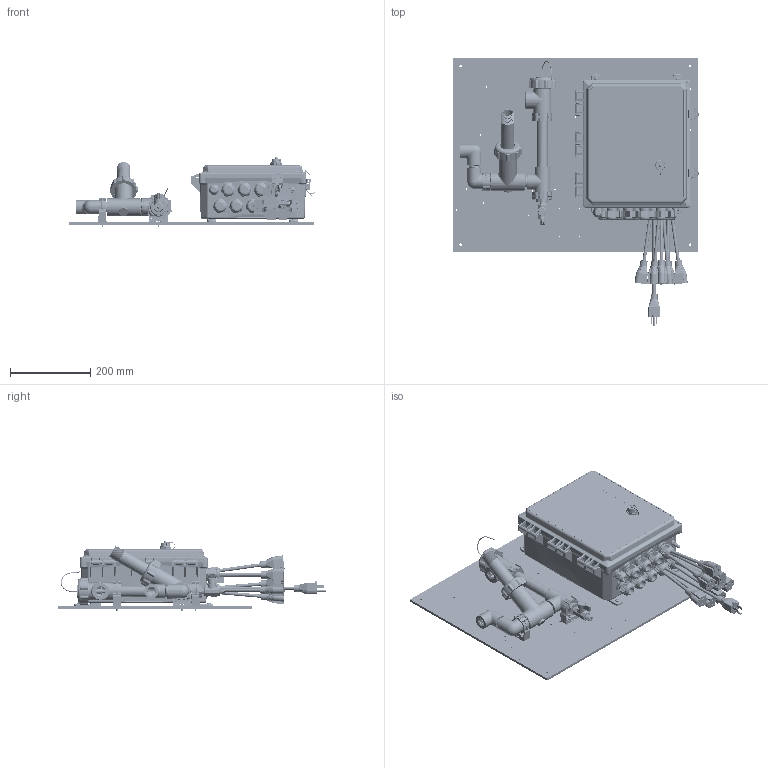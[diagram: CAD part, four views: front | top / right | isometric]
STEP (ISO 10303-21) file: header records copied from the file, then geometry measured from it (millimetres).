
FILE_DESCRIPTION (( 'STEP AP203' ), '1' );
FILE_NAME ('W900-CT-PFNNNN.STEP', '2019-01-24T13:47:25', ( '' ), ( '' ), 'SwSTEP 2.0', 'SolidWorks 2018', '' );
FILE_SCHEMA (( 'CONFIG_CONTROL_DESIGN' ));
Length unit declared in the file: inch
Products named in the file (42): ISA0006; ISA0025; IMS0006; IMS0019_30075T211; IMS0035_91500A537; IMS0023_30075T212; IMS0020; IMC0005; W900 Shell; ISA0023; IMS0010; IMS0002; 191010; 102906; IMS0013; IMC0006; IMC0003; 102907; 102903_102903; IMR0003; IMC0002; W900-CT-PFNNNN; ISA0026; IMS0029; IMC0001; IMS0027_98273A320; IMS0003_4880K345; IMS0030; IMS0012; IMS0031; IMS0034; IMC0004; IMS0037_Cord1; 103860_Cord1; IMS0005; IMS0036_91772A829; 103861; IMS0011_4882K14; IMS0032
Assembly tree (72 placements, depth 4):
  W900-CT-PFNNNN
    IMR0003
    191010
      IMC0002
      IMS0032
      IMS0002
      IMS0011_4882K14  x3
      IMC0004
      IMS0020  x2
      IMS0003_4880K345
      ISA0023
        IMS0013
        IMS0012
    IMS0019_30075T211
    IMS0023_30075T212  x2
    IMS0030
    IMS0006
    ISA0026
      IMC0003
      IMS0010
      IMS0006
      ISA0025
        IMC0006
        IMS0029  x2
    IMC0001  x2
    IMC0005
    IMS0031
    IMS0005
    W900 Shell
      W900 Shell
      IMS0034  x4
      IMS0035_91500A537  x4
      IMS0036_91772A829  x4
      ISA0006
        102903_102903
        102906
        103860_Cord1  x3
        103861
      ISA0006
        102903_102903
        102906
        103860_Cord1  x2
        103861
      ISA0006
        102907
        102903_102903
        102906
        103860_Cord1  x3
        103861
      IMS0037_Cord1
    IMS0027_98273A320  x3
Bounding box: 612.29 x 664.97 x 174 mm (x, y, z)
Volume: 4545995.6 mm3; surface area: 2004352 mm2
Topology: 111 solids, 111 shells, 16450 faces, 43089 edges, 26965 vertices
Faces by surface type: plane 6725, cylinder 4951, bspline 3205, cone 1024, torus 446, sphere 99
Entity records: 657382 total; most frequent: CARTESIAN_POINT 338573, ORIENTED_EDGE 74962, DIRECTION 52497, EDGE_CURVE 37481, VERTEX_POINT 23577, AXIS2_PLACEMENT_3D 18103, LINE 16291, VECTOR 16291
